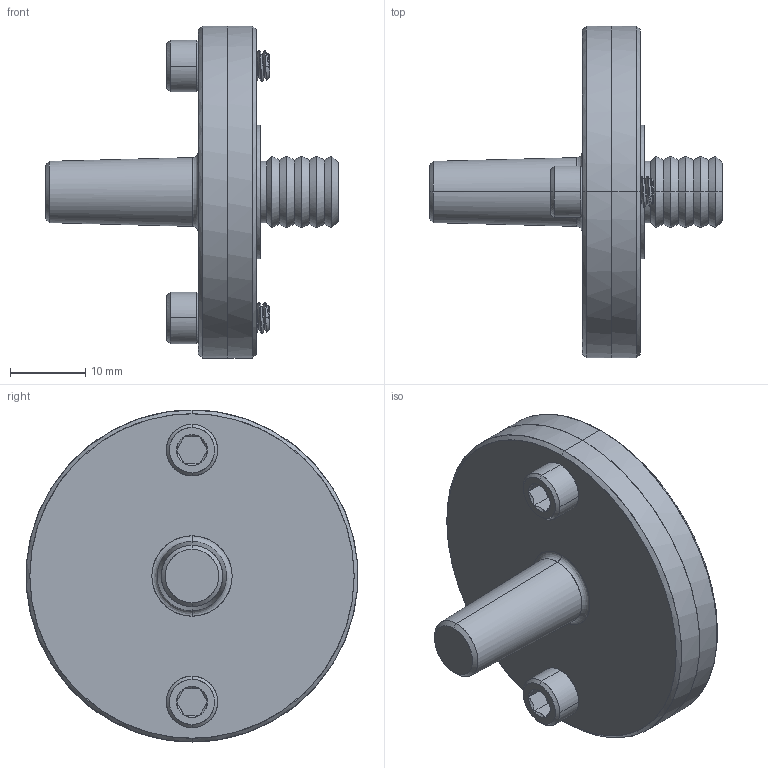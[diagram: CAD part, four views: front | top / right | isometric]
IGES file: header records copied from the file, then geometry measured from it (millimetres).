
Start section: Comment
Global section: file name: 1202.igs; native system:  By Spatial Corp.; preprocessor: XPlus PS/IGES 3.0; author: sherline; organization: Title; date: 20210930.192904; units: inch
Bounding box: 38.99 x 44.1 x 44.2 mm (x, y, z)
Surface area: 8879.3 mm2 (no closed solid volume)
Topology: 0 solids, 0 shells, 249 faces, 1544 edges, 1544 vertices
Faces by surface type: revolution 216, extrusion 29, bspline 4
